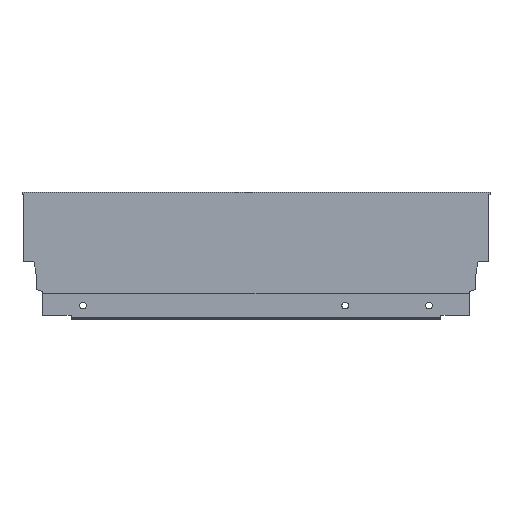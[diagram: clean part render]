
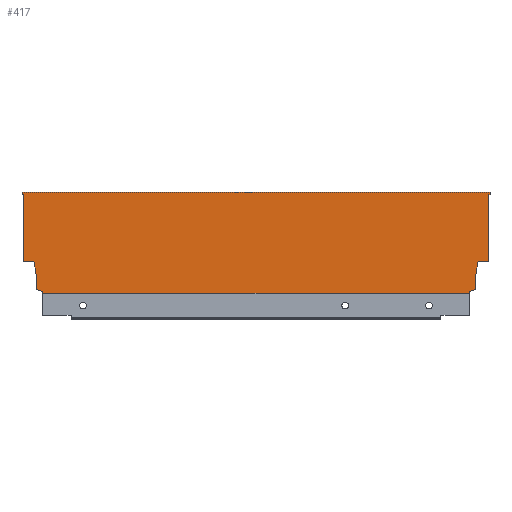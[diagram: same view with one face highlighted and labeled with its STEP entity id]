
A CAD part, top view. The second image highlights one B-rep face of the part: STEP entity #417.
In plain terms, the highlighted planar face has unit normal (0, 0, 1).
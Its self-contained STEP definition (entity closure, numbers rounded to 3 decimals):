
#197 = CARTESIAN_POINT ( 'NONE',  ( 0., 0., 7.5 ) ) ;
#208 = DIRECTION ( 'NONE',  ( 0., -1., 0. ) ) ;
#270 = CARTESIAN_POINT ( 'NONE',  ( 1., 66.5, 7.5 ) ) ;
#284 = CARTESIAN_POINT ( 'NONE',  ( -314., 68., 7.5 ) ) ;
#294 = CARTESIAN_POINT ( 'NONE',  ( -313., 21.2, 7.5 ) ) ;
#298 = CARTESIAN_POINT ( 'NONE',  ( 0., 66.5, 7.5 ) ) ;
#306 = CARTESIAN_POINT ( 'NONE',  ( -305.94, 21.2, 7.5 ) ) ;
#308 = CARTESIAN_POINT ( 'NONE',  ( -299.996, 0., 7.5 ) ) ;
#310 = CARTESIAN_POINT ( 'NONE',  ( 0., 21.2, 7.5 ) ) ;
#314 = CARTESIAN_POINT ( 'NONE',  ( -7.06, 21.2, 7.5 ) ) ;
#316 = CARTESIAN_POINT ( 'NONE',  ( -13.004, 0., 7.5 ) ) ;
#319 = CARTESIAN_POINT ( 'NONE',  ( -8.9, 10.765, 7.5 ) ) ;
#320 = CARTESIAN_POINT ( 'NONE',  ( -314., 66.5, 7.5 ) ) ;
#327 = CARTESIAN_POINT ( 'NONE',  ( 1., 68., 7.5 ) ) ;
#331 = CARTESIAN_POINT ( 'NONE',  ( -304.1, 2.64, 7.5 ) ) ;
#333 = CARTESIAN_POINT ( 'NONE',  ( -299.996, 1.146, 7.5 ) ) ;
#337 = CARTESIAN_POINT ( 'NONE',  ( -13.004, 1.146, 7.5 ) ) ;
#338 = CARTESIAN_POINT ( 'NONE',  ( -8.9, 2.64, 7.5 ) ) ;
#340 = CARTESIAN_POINT ( 'NONE',  ( -313., 66.5, 7.5 ) ) ;
#345 = CARTESIAN_POINT ( 'NONE',  ( -304.1, 10.765, 7.5 ) ) ;
#417 = ADVANCED_FACE ( 'NONE', ( #1004 ), #1359, .T. ) ;
#440 = AXIS2_PLACEMENT_3D ( 'NONE', #1362, #1374, #1375 ) ;
#477 = EDGE_CURVE ( 'NONE', #1248, #1256, #978, .T. ) ;
#478 = EDGE_CURVE ( 'NONE', #1285, #1246, #984, .T. ) ;
#479 = EDGE_CURVE ( 'NONE', #1260, #1280, #982, .T. ) ;
#481 = EDGE_CURVE ( 'NONE', #1246, #1234, #970, .T. ) ;
#482 = EDGE_CURVE ( 'NONE', #1260, #1224, #980, .T. ) ;
#483 = EDGE_CURVE ( 'NONE', #1224, #1267, #975, .T. ) ;
#484 = EDGE_CURVE ( 'NONE', #1280, #1234, #973, .T. ) ;
#485 = EDGE_CURVE ( 'NONE', #1271, #1285, #962, .T. ) ;
#486 = EDGE_CURVE ( 'NONE', #1273, #1271, #967, .T. ) ;
#487 = EDGE_CURVE ( 'NONE', #1248, #1273, #965, .T. ) ;
#488 = EDGE_CURVE ( 'NONE', #1259, #1278, #956, .T. ) ;
#489 = EDGE_CURVE ( 'NONE', #1277, #1256, #963, .T. ) ;
#490 = EDGE_CURVE ( 'NONE', #1254, #1259, #952, .T. ) ;
#491 = EDGE_CURVE ( 'NONE', #1278, #1277, #959, .T. ) ;
#492 = EDGE_CURVE ( 'NONE', #1250, #1254, #957, .T. ) ;
#494 = EDGE_CURVE ( 'NONE', #1210, #1238, #949, .T. ) ;
#496 = EDGE_CURVE ( 'NONE', #1267, #1210, #947, .T. ) ;
#596 = EDGE_CURVE ( 'NONE', #1238, #1250, #749, .T. ) ;
#741 = VECTOR ( 'NONE', #208, 1000. ) ;
#749 = LINE ( 'NONE', #197, #741 ) ;
#940 = VECTOR ( 'NONE', #1457, 1000. ) ;
#944 = VECTOR ( 'NONE', #1678, 1000. ) ;
#947 = LINE ( 'NONE', #1459, #940 ) ;
#948 = VECTOR ( 'NONE', #1455, 1000. ) ;
#949 = LINE ( 'NONE', #1456, #944 ) ;
#950 = VECTOR ( 'NONE', #1453, 1000. ) ;
#951 = VECTOR ( 'NONE', #1451, 1000. ) ;
#952 = LINE ( 'NONE', #1450, #951 ) ;
#954 = VECTOR ( 'NONE', #1449, 1000. ) ;
#955 = VECTOR ( 'NONE', #1447, 1000. ) ;
#956 = LINE ( 'NONE', #1446, #955 ) ;
#957 = LINE ( 'NONE', #1452, #948 ) ;
#958 = VECTOR ( 'NONE', #1445, 1000. ) ;
#959 = LINE ( 'NONE', #1448, #950 ) ;
#960 = VECTOR ( 'NONE', #1443, 1000. ) ;
#961 = VECTOR ( 'NONE', #1441, 1000. ) ;
#962 = LINE ( 'NONE', #1440, #961 ) ;
#963 = LINE ( 'NONE', #1444, #954 ) ;
#964 = VECTOR ( 'NONE', #1439, 1000. ) ;
#965 = LINE ( 'NONE', #1442, #958 ) ;
#966 = VECTOR ( 'NONE', #1437, 1000. ) ;
#967 = LINE ( 'NONE', #1438, #960 ) ;
#968 = VECTOR ( 'NONE', #1435, 1000. ) ;
#969 = VECTOR ( 'NONE', #1433, 1000. ) ;
#970 = LINE ( 'NONE', #1432, #969 ) ;
#973 = LINE ( 'NONE', #1436, #964 ) ;
#974 = VECTOR ( 'NONE', #1429, 1000. ) ;
#975 = LINE ( 'NONE', #1434, #966 ) ;
#976 = VECTOR ( 'NONE', #1427, 1000. ) ;
#978 = LINE ( 'NONE', #1416, #981 ) ;
#980 = LINE ( 'NONE', #1428, #968 ) ;
#981 = VECTOR ( 'NONE', #1425, 1000. ) ;
#982 = LINE ( 'NONE', #1426, #974 ) ;
#984 = LINE ( 'NONE', #1424, #976 ) ;
#1004 = FACE_OUTER_BOUND ( 'NONE', #1594, .T. ) ;
#1210 = VERTEX_POINT ( 'NONE', #270 ) ;
#1224 = VERTEX_POINT ( 'NONE', #284 ) ;
#1234 = VERTEX_POINT ( 'NONE', #294 ) ;
#1238 = VERTEX_POINT ( 'NONE', #298 ) ;
#1246 = VERTEX_POINT ( 'NONE', #306 ) ;
#1248 = VERTEX_POINT ( 'NONE', #308 ) ;
#1250 = VERTEX_POINT ( 'NONE', #310 ) ;
#1254 = VERTEX_POINT ( 'NONE', #314 ) ;
#1256 = VERTEX_POINT ( 'NONE', #316 ) ;
#1259 = VERTEX_POINT ( 'NONE', #319 ) ;
#1260 = VERTEX_POINT ( 'NONE', #320 ) ;
#1267 = VERTEX_POINT ( 'NONE', #327 ) ;
#1271 = VERTEX_POINT ( 'NONE', #331 ) ;
#1273 = VERTEX_POINT ( 'NONE', #333 ) ;
#1277 = VERTEX_POINT ( 'NONE', #337 ) ;
#1278 = VERTEX_POINT ( 'NONE', #338 ) ;
#1280 = VERTEX_POINT ( 'NONE', #340 ) ;
#1285 = VERTEX_POINT ( 'NONE', #345 ) ;
#1359 = PLANE ( 'NONE',  #440 ) ;
#1362 = CARTESIAN_POINT ( 'NONE',  ( -313., 0., 7.5 ) ) ;
#1374 = DIRECTION ( 'NONE',  ( 0., 0., 1. ) ) ;
#1375 = DIRECTION ( 'NONE',  ( 1., 0., 0. ) ) ;
#1416 = CARTESIAN_POINT ( 'NONE',  ( -313., 0., 7.5 ) ) ;
#1424 = CARTESIAN_POINT ( 'NONE',  ( -305.94, 21.2, 7.5 ) ) ;
#1425 = DIRECTION ( 'NONE',  ( 1., 0., 0. ) ) ;
#1426 = CARTESIAN_POINT ( 'NONE',  ( -314., 66.5, 7.5 ) ) ;
#1427 = DIRECTION ( 'NONE',  ( -0.174, 0.985, 0. ) ) ;
#1428 = CARTESIAN_POINT ( 'NONE',  ( -314., 66.5, 7.5 ) ) ;
#1429 = DIRECTION ( 'NONE',  ( 1., 0., 0. ) ) ;
#1432 = CARTESIAN_POINT ( 'NONE',  ( -318., 21.2, 7.5 ) ) ;
#1433 = DIRECTION ( 'NONE',  ( -1., 0., 0. ) ) ;
#1434 = CARTESIAN_POINT ( 'NONE',  ( -313., 68., 7.5 ) ) ;
#1435 = DIRECTION ( 'NONE',  ( 0., 1., 0. ) ) ;
#1436 = CARTESIAN_POINT ( 'NONE',  ( -313., 0., 7.5 ) ) ;
#1437 = DIRECTION ( 'NONE',  ( 1., 0., 0. ) ) ;
#1438 = CARTESIAN_POINT ( 'NONE',  ( -304.1, 2.64, 7.5 ) ) ;
#1439 = DIRECTION ( 'NONE',  ( 0., -1., 0. ) ) ;
#1440 = CARTESIAN_POINT ( 'NONE',  ( -304.1, 10.765, 7.5 ) ) ;
#1441 = DIRECTION ( 'NONE',  ( 0., 1., 0. ) ) ;
#1442 = CARTESIAN_POINT ( 'NONE',  ( -299.996, 1.146, 7.5 ) ) ;
#1443 = DIRECTION ( 'NONE',  ( -0.94, 0.342, 0. ) ) ;
#1444 = CARTESIAN_POINT ( 'NONE',  ( -13.004, 1.146, 7.5 ) ) ;
#1445 = DIRECTION ( 'NONE',  ( 0., 1., 0. ) ) ;
#1446 = CARTESIAN_POINT ( 'NONE',  ( -8.9, 10.765, 7.5 ) ) ;
#1447 = DIRECTION ( 'NONE',  ( 0., -1., 0. ) ) ;
#1448 = CARTESIAN_POINT ( 'NONE',  ( -8.9, 2.64, 7.5 ) ) ;
#1449 = DIRECTION ( 'NONE',  ( 0., -1., 0. ) ) ;
#1450 = CARTESIAN_POINT ( 'NONE',  ( -7.06, 21.2, 7.5 ) ) ;
#1451 = DIRECTION ( 'NONE',  ( -0.174, -0.985, 0. ) ) ;
#1452 = CARTESIAN_POINT ( 'NONE',  ( 0., 21.2, 7.5 ) ) ;
#1453 = DIRECTION ( 'NONE',  ( -0.94, -0.342, 0. ) ) ;
#1455 = DIRECTION ( 'NONE',  ( -1., 0., 0. ) ) ;
#1456 = CARTESIAN_POINT ( 'NONE',  ( 1., 66.5, 7.5 ) ) ;
#1457 = DIRECTION ( 'NONE',  ( 0., -1., 0. ) ) ;
#1459 = CARTESIAN_POINT ( 'NONE',  ( 1., 68., 7.5 ) ) ;
#1476 = ORIENTED_EDGE ( 'NONE', *, *, #478, .F. ) ;
#1482 = ORIENTED_EDGE ( 'NONE', *, *, #489, .F. ) ;
#1490 = ORIENTED_EDGE ( 'NONE', *, *, #491, .F. ) ;
#1491 = ORIENTED_EDGE ( 'NONE', *, *, #494, .F. ) ;
#1492 = ORIENTED_EDGE ( 'NONE', *, *, #596, .F. ) ;
#1496 = ORIENTED_EDGE ( 'NONE', *, *, #496, .F. ) ;
#1506 = ORIENTED_EDGE ( 'NONE', *, *, #485, .F. ) ;
#1507 = ORIENTED_EDGE ( 'NONE', *, *, #486, .F. ) ;
#1565 = ORIENTED_EDGE ( 'NONE', *, *, #482, .F. ) ;
#1567 = ORIENTED_EDGE ( 'NONE', *, *, #477, .T. ) ;
#1568 = ORIENTED_EDGE ( 'NONE', *, *, #487, .F. ) ;
#1570 = ORIENTED_EDGE ( 'NONE', *, *, #488, .F. ) ;
#1594 = EDGE_LOOP ( 'NONE', ( #1661, #1565, #1607, #1628, #1644, #1476, #1506, #1507, #1568, #1567, #1482, #1490, #1570, #1645, #1619, #1492, #1491, #1496 ) ) ;
#1607 = ORIENTED_EDGE ( 'NONE', *, *, #479, .T. ) ;
#1619 = ORIENTED_EDGE ( 'NONE', *, *, #492, .F. ) ;
#1628 = ORIENTED_EDGE ( 'NONE', *, *, #484, .T. ) ;
#1644 = ORIENTED_EDGE ( 'NONE', *, *, #481, .F. ) ;
#1645 = ORIENTED_EDGE ( 'NONE', *, *, #490, .F. ) ;
#1661 = ORIENTED_EDGE ( 'NONE', *, *, #483, .F. ) ;
#1678 = DIRECTION ( 'NONE',  ( -1., 0., 0. ) ) ;
